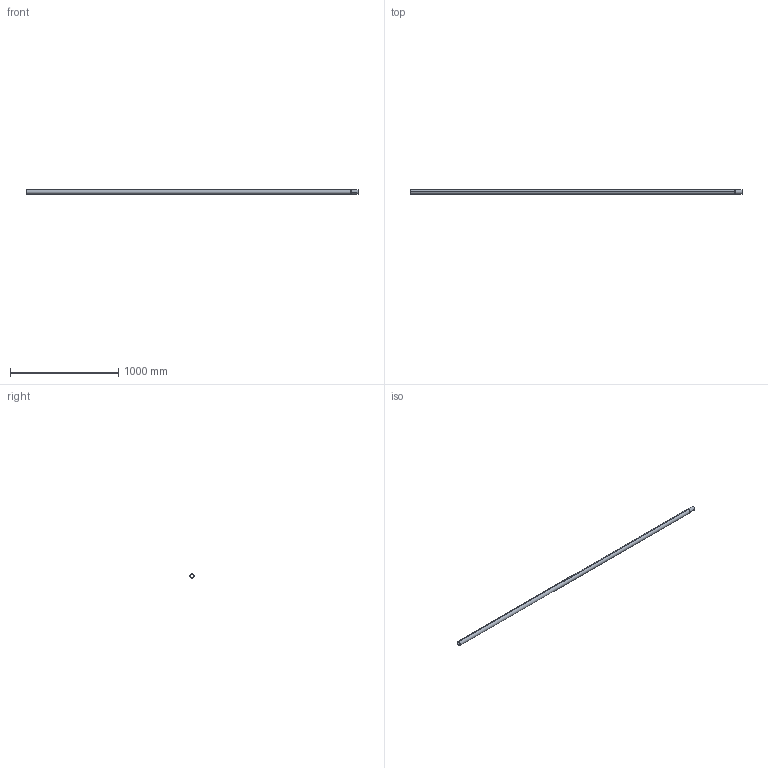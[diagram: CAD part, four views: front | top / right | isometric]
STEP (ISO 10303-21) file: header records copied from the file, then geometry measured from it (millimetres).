
FILE_DESCRIPTION (( 'STEP AP203' ), '1' );
FILE_NAME ('Rostfritt rör Ø42x1,5 L_3000.STEP', '2014-09-26T06:29:11', ( '' ), ( '' ), 'SwSTEP 2.0', 'SolidWorks 2014', '' );
FILE_SCHEMA (( 'CONFIG_CONTROL_DESIGN' ));
Length unit declared in the file: millimetre
Products named in the file (1): Rostfritt rör Ø42x1,5 L_3000
Bounding box: 3064 x 42 x 42 mm (x, y, z)
Volume: 583641.9 mm3; surface area: 778552 mm2
Topology: 1 solids, 1 shells, 14 faces, 32 edges, 20 vertices
Faces by surface type: cylinder 8, cone 4, plane 2
Entity records: 485 total; most frequent: DIRECTION 82, CARTESIAN_POINT 67, ORIENTED_EDGE 64, AXIS2_PLACEMENT_3D 35, EDGE_CURVE 32, VERTEX_POINT 20, CIRCLE 20, EDGE_LOOP 16
